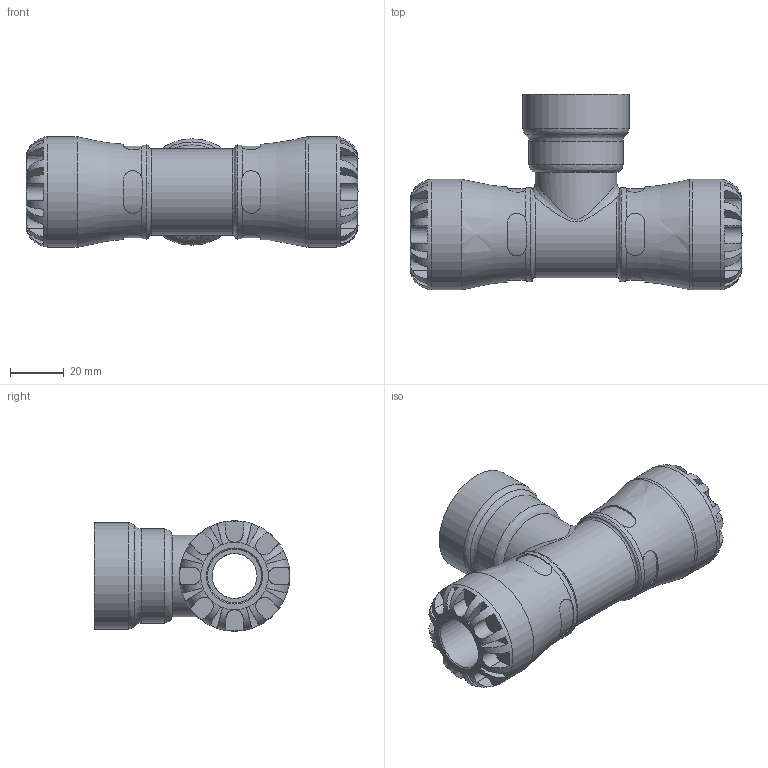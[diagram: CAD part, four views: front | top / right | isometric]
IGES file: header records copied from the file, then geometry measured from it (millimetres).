
Global section: file name: 101400020010_191400020010.ipt; native system: Autodesk Inventor 2015; preprocessor: unknown; author: KIM; date: 20170130.090634; units: millimetre
Bounding box: 123 x 72.5 x 41 mm (x, y, z)
Volume: 97949.4 mm3; surface area: 33832.7 mm2
Topology: 1 solids, 1 shells, 204 faces, 555 edges, 356 vertices
Faces by surface type: plane 120, revolution 51, cylinder 32, bspline 1
Full cylindrical faces by diameter (mm): 30.291 x1, 34.835 x1, 34.85 x2, 39.378 x1, 41 x2
